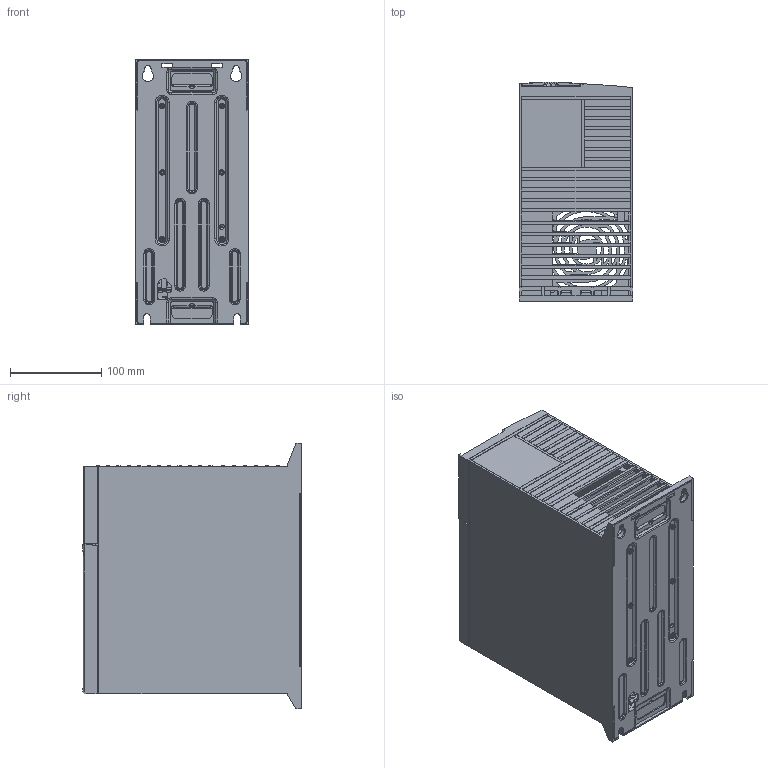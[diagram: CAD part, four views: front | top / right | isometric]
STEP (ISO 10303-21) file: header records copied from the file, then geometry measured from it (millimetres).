
FILE_DESCRIPTION (( 'STEP AP203' ), '1' );
FILE_NAME ('ﾏﾗﾂ 204 drawing STP_0.STEP', '2016-01-18T12:53:35', ( '' ), ( '' ), 'SwSTEP 2.0', 'SolidWorks 2015', '' );
FILE_SCHEMA (( 'CONFIG_CONTROL_DESIGN' ));
Length unit declared in the file: millimetre
Products named in the file (38): 132B5716_M4-SCREW_AF5_2; 132B5716_PIN-04_AF0_2; 132B5716_PIN-02_AF0_2; 132B5716_HOUSING_AF0_3; 132B4063; 132B5716_TOPCOVER_AF0_3; 132B5716_PIN-05_AF0_2; 132B5716_PIN-03_AF0_2; 132B5716_M4-CAGE_AF0_2; 175F0413; 132B5716_BOTTOMCOVER_AF0_3; 132B5716_PIN-06_AF0_2; 132B5716_M4-CAGE_AF1_2; 681X1343; 132B3242; 132B5716_ASM_8_ASM; 132B5716_M4-SCREW_AF0_2; 132B5716_M4-CAGE_AF2_2; 132B5709; 132B3205; ASM0001_ASM; 132B5716_M4-SCREW_AF1_2; 132B5716_M4-CAGE_AF3_2; ﾏﾗﾂ 204 drawing STP_0; 132B7000; 1709694-3; 132B5716_M4-SCREW_AF2_2; 132B5716_M4-CAGE_AF4_2; 132B5708; 132B3240; 132B5716_M4-SCREW_AF3_2; 132B5716_M4-CAGE_AF5_2; 132B7000_ASM; 681Z1133; 132B5716_M4-SCREW_AF4_2; 132B5716_PIN-01_AF0_2; 132B4061; 132B3252
Assembly tree (43 placements, depth 4):
  ﾏﾗﾂ 204 drawing STP_0
    132B3242
    132B3205
    132B7000_ASM
      132B7000
      132B5708
    132B4061
    ASM0001_ASM
      132B5716_ASM_8_ASM
        132B5716_HOUSING_AF0_3
        132B5716_M4-CAGE_AF0_2
        132B5716_M4-CAGE_AF1_2
        132B5716_M4-CAGE_AF2_2
        132B5716_M4-CAGE_AF3_2
        132B5716_M4-CAGE_AF4_2
        132B5716_M4-CAGE_AF5_2
        132B5716_PIN-01_AF0_2
        132B5716_PIN-02_AF0_2
        132B5716_PIN-03_AF0_2
        132B5716_PIN-04_AF0_2
        132B5716_PIN-05_AF0_2
        132B5716_PIN-06_AF0_2
        132B5716_M4-SCREW_AF0_2
        132B5716_M4-SCREW_AF1_2
        132B5716_M4-SCREW_AF2_2
        132B5716_M4-SCREW_AF3_2
        132B5716_M4-SCREW_AF4_2
        132B5716_M4-SCREW_AF5_2
        132B5716_TOPCOVER_AF0_3
        132B5716_BOTTOMCOVER_AF0_3
    1709694-3
    132B3240
    681Z1133  x6
    132B3252
    132B4063
    175F0413
    681X1343  x2
    132B5709
Bounding box: 125 x 240.91 x 292 mm (x, y, z)
Volume: 999708.3 mm3; surface area: 834302.2 mm2
Topology: 23 solids, 75 shells, 3814 faces, 10437 edges, 6601 vertices
Faces by surface type: plane 2342, cylinder 973, bspline 370, cone 117, torus 12
Entity records: 122389 total; most frequent: CARTESIAN_POINT 33645, ORIENTED_EDGE 18176, DIRECTION 16446, EDGE_CURVE 9190, VECTOR 6692, LINE 6692, VERTEX_POINT 5947, AXIS2_PLACEMENT_3D 4877
